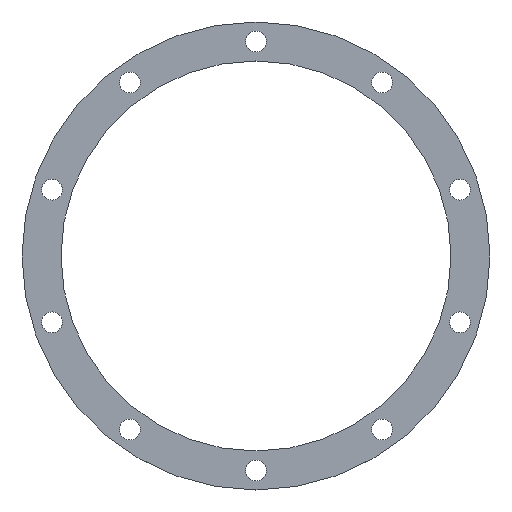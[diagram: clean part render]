
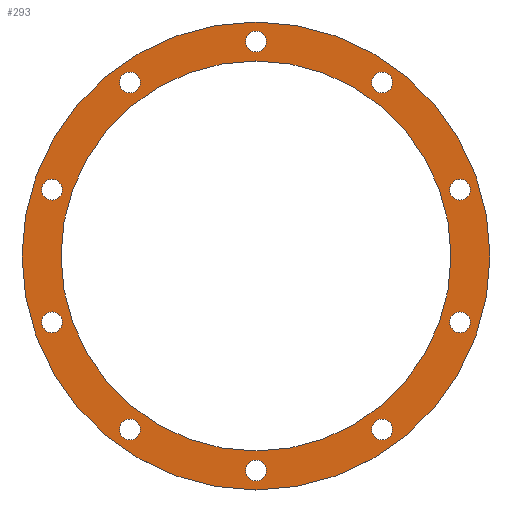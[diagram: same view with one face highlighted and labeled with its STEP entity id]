
A CAD part, top view. The second image highlights one B-rep face of the part: STEP entity #293.
In plain terms, the highlighted planar face has unit normal (0, 0, 1).
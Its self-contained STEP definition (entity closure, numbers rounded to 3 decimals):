
#15=FACE_BOUND('',#66,.T.);
#16=FACE_BOUND('',#67,.T.);
#17=FACE_BOUND('',#68,.T.);
#18=FACE_BOUND('',#69,.T.);
#19=FACE_BOUND('',#70,.T.);
#20=FACE_BOUND('',#71,.T.);
#21=FACE_BOUND('',#72,.T.);
#22=FACE_BOUND('',#73,.T.);
#23=FACE_BOUND('',#74,.T.);
#24=FACE_BOUND('',#75,.T.);
#25=FACE_BOUND('',#76,.T.);
#37=PLANE('',#351);
#51=FACE_OUTER_BOUND('',#65,.T.);
#65=EDGE_LOOP('',(#245));
#66=EDGE_LOOP('',(#246));
#67=EDGE_LOOP('',(#247));
#68=EDGE_LOOP('',(#248));
#69=EDGE_LOOP('',(#249));
#70=EDGE_LOOP('',(#250));
#71=EDGE_LOOP('',(#251));
#72=EDGE_LOOP('',(#252));
#73=EDGE_LOOP('',(#253));
#74=EDGE_LOOP('',(#254));
#75=EDGE_LOOP('',(#255));
#76=EDGE_LOOP('',(#256));
#113=CIRCLE('',#316,4.);
#115=CIRCLE('',#319,4.);
#117=CIRCLE('',#322,4.);
#119=CIRCLE('',#325,4.);
#121=CIRCLE('',#328,4.);
#123=CIRCLE('',#331,75.);
#125=CIRCLE('',#334,4.);
#127=CIRCLE('',#337,4.);
#129=CIRCLE('',#340,4.);
#131=CIRCLE('',#343,4.);
#133=CIRCLE('',#346,4.);
#135=CIRCLE('',#349,90.);
#137=VERTEX_POINT('',#445);
#139=VERTEX_POINT('',#451);
#141=VERTEX_POINT('',#457);
#143=VERTEX_POINT('',#463);
#145=VERTEX_POINT('',#469);
#147=VERTEX_POINT('',#475);
#149=VERTEX_POINT('',#481);
#151=VERTEX_POINT('',#487);
#153=VERTEX_POINT('',#493);
#155=VERTEX_POINT('',#499);
#157=VERTEX_POINT('',#505);
#159=VERTEX_POINT('',#511);
#161=EDGE_CURVE('',#137,#137,#113,.T.);
#164=EDGE_CURVE('',#139,#139,#115,.T.);
#167=EDGE_CURVE('',#141,#141,#117,.T.);
#170=EDGE_CURVE('',#143,#143,#119,.T.);
#173=EDGE_CURVE('',#145,#145,#121,.T.);
#176=EDGE_CURVE('',#147,#147,#123,.T.);
#179=EDGE_CURVE('',#149,#149,#125,.T.);
#182=EDGE_CURVE('',#151,#151,#127,.T.);
#185=EDGE_CURVE('',#153,#153,#129,.T.);
#188=EDGE_CURVE('',#155,#155,#131,.T.);
#191=EDGE_CURVE('',#157,#157,#133,.T.);
#194=EDGE_CURVE('',#159,#159,#135,.T.);
#245=ORIENTED_EDGE('',*,*,#194,.T.);
#246=ORIENTED_EDGE('',*,*,#191,.T.);
#247=ORIENTED_EDGE('',*,*,#188,.T.);
#248=ORIENTED_EDGE('',*,*,#185,.T.);
#249=ORIENTED_EDGE('',*,*,#182,.T.);
#250=ORIENTED_EDGE('',*,*,#179,.T.);
#251=ORIENTED_EDGE('',*,*,#176,.T.);
#252=ORIENTED_EDGE('',*,*,#173,.T.);
#253=ORIENTED_EDGE('',*,*,#170,.T.);
#254=ORIENTED_EDGE('',*,*,#167,.T.);
#255=ORIENTED_EDGE('',*,*,#164,.T.);
#256=ORIENTED_EDGE('',*,*,#161,.T.);
#293=ADVANCED_FACE('',(#51,#15,#16,#17,#18,#19,#20,#21,#22,#23,#24,#25),
#37,.T.);
#316=AXIS2_PLACEMENT_3D('',#446,#357,#358);
#319=AXIS2_PLACEMENT_3D('',#452,#364,#365);
#322=AXIS2_PLACEMENT_3D('',#458,#371,#372);
#325=AXIS2_PLACEMENT_3D('',#464,#378,#379);
#328=AXIS2_PLACEMENT_3D('',#470,#385,#386);
#331=AXIS2_PLACEMENT_3D('',#476,#392,#393);
#334=AXIS2_PLACEMENT_3D('',#482,#399,#400);
#337=AXIS2_PLACEMENT_3D('',#488,#406,#407);
#340=AXIS2_PLACEMENT_3D('',#494,#413,#414);
#343=AXIS2_PLACEMENT_3D('',#500,#420,#421);
#346=AXIS2_PLACEMENT_3D('',#506,#427,#428);
#349=AXIS2_PLACEMENT_3D('',#512,#434,#435);
#351=AXIS2_PLACEMENT_3D('',#516,#439,#440);
#357=DIRECTION('center_axis',(0.,0.,-1.));
#358=DIRECTION('ref_axis',(-1.,0.,0.));
#364=DIRECTION('center_axis',(0.,0.,-1.));
#365=DIRECTION('ref_axis',(-1.,0.,0.));
#371=DIRECTION('center_axis',(0.,0.,-1.));
#372=DIRECTION('ref_axis',(-1.,0.,0.));
#378=DIRECTION('center_axis',(0.,0.,-1.));
#379=DIRECTION('ref_axis',(-1.,0.,0.));
#385=DIRECTION('center_axis',(0.,0.,-1.));
#386=DIRECTION('ref_axis',(-1.,0.,0.));
#392=DIRECTION('center_axis',(0.,0.,-1.));
#393=DIRECTION('ref_axis',(-1.,0.,0.));
#399=DIRECTION('center_axis',(0.,0.,-1.));
#400=DIRECTION('ref_axis',(-1.,0.,0.));
#406=DIRECTION('center_axis',(0.,0.,-1.));
#407=DIRECTION('ref_axis',(-1.,0.,0.));
#413=DIRECTION('center_axis',(0.,0.,-1.));
#414=DIRECTION('ref_axis',(-1.,0.,0.));
#420=DIRECTION('center_axis',(0.,0.,-1.));
#421=DIRECTION('ref_axis',(-1.,0.,0.));
#427=DIRECTION('center_axis',(0.,0.,-1.));
#428=DIRECTION('ref_axis',(-1.,0.,0.));
#434=DIRECTION('center_axis',(0.,0.,1.));
#435=DIRECTION('ref_axis',(1.,0.,0.));
#439=DIRECTION('center_axis',(0.,0.,1.));
#440=DIRECTION('ref_axis',(1.,0.,0.));
#445=CARTESIAN_POINT('',(142.,75.,1.));
#446=CARTESIAN_POINT('Origin',(138.,75.,1.));
#451=CARTESIAN_POINT('',(93.508,59.244,1.));
#452=CARTESIAN_POINT('Origin',(89.508,59.244,1.));
#457=CARTESIAN_POINT('',(190.492,59.244,1.));
#458=CARTESIAN_POINT('Origin',(186.492,59.244,1.));
#463=CARTESIAN_POINT('',(63.538,17.994,1.));
#464=CARTESIAN_POINT('Origin',(59.538,17.994,1.));
#469=CARTESIAN_POINT('',(220.462,17.994,1.));
#470=CARTESIAN_POINT('Origin',(216.462,17.994,1.));
#475=CARTESIAN_POINT('',(213.,-7.5,1.));
#476=CARTESIAN_POINT('Origin',(138.,-7.5,1.));
#481=CARTESIAN_POINT('',(142.,-90.,1.));
#482=CARTESIAN_POINT('Origin',(138.,-90.,1.));
#487=CARTESIAN_POINT('',(93.508,-74.244,1.));
#488=CARTESIAN_POINT('Origin',(89.508,-74.244,1.));
#493=CARTESIAN_POINT('',(63.538,-32.994,1.));
#494=CARTESIAN_POINT('Origin',(59.538,-32.994,1.));
#499=CARTESIAN_POINT('',(220.462,-32.994,1.));
#500=CARTESIAN_POINT('Origin',(216.462,-32.994,1.));
#505=CARTESIAN_POINT('',(190.492,-74.244,1.));
#506=CARTESIAN_POINT('Origin',(186.492,-74.244,1.));
#511=CARTESIAN_POINT('',(48.,-7.5,1.));
#512=CARTESIAN_POINT('Origin',(138.,-7.5,1.));
#516=CARTESIAN_POINT('Origin',(138.,-7.5,1.));
